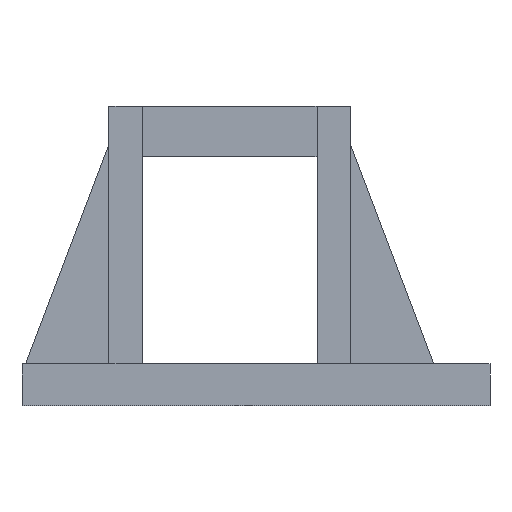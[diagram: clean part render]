
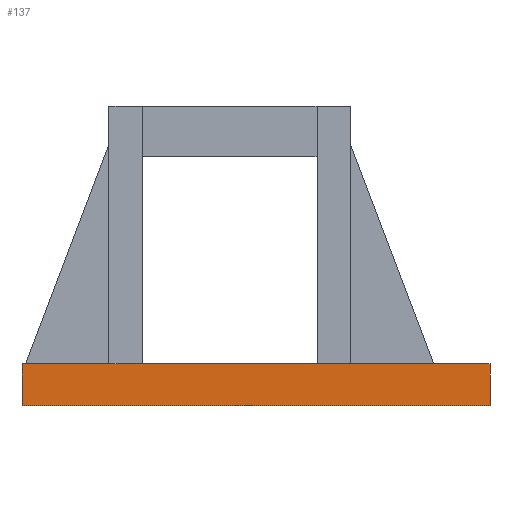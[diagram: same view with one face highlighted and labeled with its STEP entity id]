
A CAD part, front view. The second image highlights one B-rep face of the part: STEP entity #137.
In plain terms, the highlighted planar face has unit normal (0, -1, 0).
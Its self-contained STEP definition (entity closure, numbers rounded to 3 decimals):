
#21 = EDGE_CURVE('',#22,#24,#26,.T.);
#22 = VERTEX_POINT('',#23);
#23 = CARTESIAN_POINT('',(-28.,-34.,0.));
#24 = VERTEX_POINT('',#25);
#25 = CARTESIAN_POINT('',(-28.,-34.,5.));
#26 = SURFACE_CURVE('',#27,(#31,#43),.PCURVE_S1.);
#27 = LINE('',#28,#29);
#28 = CARTESIAN_POINT('',(-28.,-34.,0.));
#29 = VECTOR('',#30,1.);
#30 = DIRECTION('',(0.,0.,1.));
#31 = PCURVE('',#32,#37);
#32 = PLANE('',#33);
#33 = AXIS2_PLACEMENT_3D('',#34,#35,#36);
#34 = CARTESIAN_POINT('',(-28.,-34.,0.));
#35 = DIRECTION('',(1.,0.,0.));
#36 = DIRECTION('',(0.,0.,1.));
#37 = DEFINITIONAL_REPRESENTATION('',(#38),#42);
#38 = LINE('',#39,#40);
#39 = CARTESIAN_POINT('',(0.,0.));
#40 = VECTOR('',#41,1.);
#41 = DIRECTION('',(1.,0.));
#42 = ( GEOMETRIC_REPRESENTATION_CONTEXT(2) 
PARAMETRIC_REPRESENTATION_CONTEXT() REPRESENTATION_CONTEXT('2D SPACE',''
  ) );
#43 = PCURVE('',#44,#49);
#44 = PLANE('',#45);
#45 = AXIS2_PLACEMENT_3D('',#46,#47,#48);
#46 = CARTESIAN_POINT('',(-28.,-34.,0.));
#47 = DIRECTION('',(0.,1.,0.));
#48 = DIRECTION('',(0.,0.,1.));
#49 = DEFINITIONAL_REPRESENTATION('',(#50),#54);
#50 = LINE('',#51,#52);
#51 = CARTESIAN_POINT('',(0.,0.));
#52 = VECTOR('',#53,1.);
#53 = DIRECTION('',(1.,0.));
#54 = ( GEOMETRIC_REPRESENTATION_CONTEXT(2) 
PARAMETRIC_REPRESENTATION_CONTEXT() REPRESENTATION_CONTEXT('2D SPACE',''
  ) );
#72 = PLANE('',#73);
#73 = AXIS2_PLACEMENT_3D('',#74,#75,#76);
#74 = CARTESIAN_POINT('',(-28.,-34.,0.));
#75 = DIRECTION('',(0.,0.,1.));
#76 = DIRECTION('',(1.,0.,0.));
#126 = PLANE('',#127);
#127 = AXIS2_PLACEMENT_3D('',#128,#129,#130);
#128 = CARTESIAN_POINT('',(-28.,-34.,5.));
#129 = DIRECTION('',(0.,0.,1.));
#130 = DIRECTION('',(1.,0.,0.));
#137 = ADVANCED_FACE('',(#138),#44,.F.);
#138 = FACE_BOUND('',#139,.F.);
#139 = EDGE_LOOP('',(#140,#163,#164,#187));
#140 = ORIENTED_EDGE('',*,*,#141,.F.);
#141 = EDGE_CURVE('',#22,#142,#144,.T.);
#142 = VERTEX_POINT('',#143);
#143 = CARTESIAN_POINT('',(28.,-34.,0.));
#144 = SURFACE_CURVE('',#145,(#149,#156),.PCURVE_S1.);
#145 = LINE('',#146,#147);
#146 = CARTESIAN_POINT('',(-28.,-34.,0.));
#147 = VECTOR('',#148,1.);
#148 = DIRECTION('',(1.,0.,0.));
#149 = PCURVE('',#44,#150);
#150 = DEFINITIONAL_REPRESENTATION('',(#151),#155);
#151 = LINE('',#152,#153);
#152 = CARTESIAN_POINT('',(0.,0.));
#153 = VECTOR('',#154,1.);
#154 = DIRECTION('',(0.,1.));
#155 = ( GEOMETRIC_REPRESENTATION_CONTEXT(2) 
PARAMETRIC_REPRESENTATION_CONTEXT() REPRESENTATION_CONTEXT('2D SPACE',''
  ) );
#156 = PCURVE('',#72,#157);
#157 = DEFINITIONAL_REPRESENTATION('',(#158),#162);
#158 = LINE('',#159,#160);
#159 = CARTESIAN_POINT('',(0.,0.));
#160 = VECTOR('',#161,1.);
#161 = DIRECTION('',(1.,0.));
#162 = ( GEOMETRIC_REPRESENTATION_CONTEXT(2) 
PARAMETRIC_REPRESENTATION_CONTEXT() REPRESENTATION_CONTEXT('2D SPACE',''
  ) );
#163 = ORIENTED_EDGE('',*,*,#21,.T.);
#164 = ORIENTED_EDGE('',*,*,#165,.T.);
#165 = EDGE_CURVE('',#24,#166,#168,.T.);
#166 = VERTEX_POINT('',#167);
#167 = CARTESIAN_POINT('',(28.,-34.,5.));
#168 = SURFACE_CURVE('',#169,(#173,#180),.PCURVE_S1.);
#169 = LINE('',#170,#171);
#170 = CARTESIAN_POINT('',(-28.,-34.,5.));
#171 = VECTOR('',#172,1.);
#172 = DIRECTION('',(1.,0.,0.));
#173 = PCURVE('',#44,#174);
#174 = DEFINITIONAL_REPRESENTATION('',(#175),#179);
#175 = LINE('',#176,#177);
#176 = CARTESIAN_POINT('',(5.,0.));
#177 = VECTOR('',#178,1.);
#178 = DIRECTION('',(0.,1.));
#179 = ( GEOMETRIC_REPRESENTATION_CONTEXT(2) 
PARAMETRIC_REPRESENTATION_CONTEXT() REPRESENTATION_CONTEXT('2D SPACE',''
  ) );
#180 = PCURVE('',#126,#181);
#181 = DEFINITIONAL_REPRESENTATION('',(#182),#186);
#182 = LINE('',#183,#184);
#183 = CARTESIAN_POINT('',(0.,0.));
#184 = VECTOR('',#185,1.);
#185 = DIRECTION('',(1.,0.));
#186 = ( GEOMETRIC_REPRESENTATION_CONTEXT(2) 
PARAMETRIC_REPRESENTATION_CONTEXT() REPRESENTATION_CONTEXT('2D SPACE',''
  ) );
#187 = ORIENTED_EDGE('',*,*,#188,.F.);
#188 = EDGE_CURVE('',#142,#166,#189,.T.);
#189 = SURFACE_CURVE('',#190,(#194,#201),.PCURVE_S1.);
#190 = LINE('',#191,#192);
#191 = CARTESIAN_POINT('',(28.,-34.,0.));
#192 = VECTOR('',#193,1.);
#193 = DIRECTION('',(0.,0.,1.));
#194 = PCURVE('',#44,#195);
#195 = DEFINITIONAL_REPRESENTATION('',(#196),#200);
#196 = LINE('',#197,#198);
#197 = CARTESIAN_POINT('',(0.,56.));
#198 = VECTOR('',#199,1.);
#199 = DIRECTION('',(1.,0.));
#200 = ( GEOMETRIC_REPRESENTATION_CONTEXT(2) 
PARAMETRIC_REPRESENTATION_CONTEXT() REPRESENTATION_CONTEXT('2D SPACE',''
  ) );
#201 = PCURVE('',#202,#207);
#202 = PLANE('',#203);
#203 = AXIS2_PLACEMENT_3D('',#204,#205,#206);
#204 = CARTESIAN_POINT('',(28.,-34.,0.));
#205 = DIRECTION('',(1.,0.,0.));
#206 = DIRECTION('',(0.,0.,1.));
#207 = DEFINITIONAL_REPRESENTATION('',(#208),#212);
#208 = LINE('',#209,#210);
#209 = CARTESIAN_POINT('',(0.,0.));
#210 = VECTOR('',#211,1.);
#211 = DIRECTION('',(1.,0.));
#212 = ( GEOMETRIC_REPRESENTATION_CONTEXT(2) 
PARAMETRIC_REPRESENTATION_CONTEXT() REPRESENTATION_CONTEXT('2D SPACE',''
  ) );
